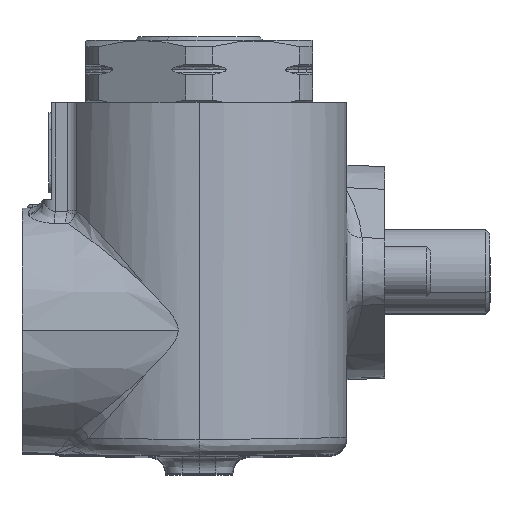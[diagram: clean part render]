
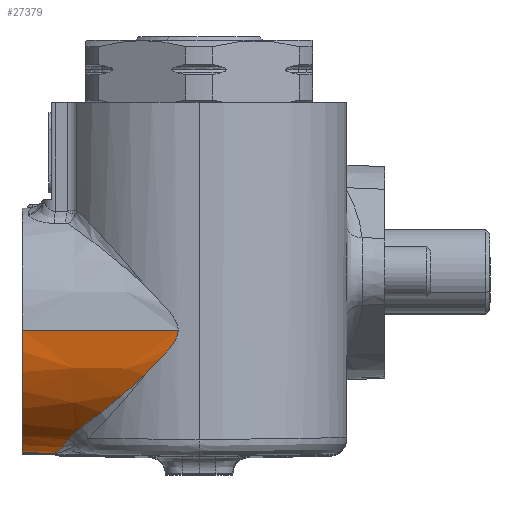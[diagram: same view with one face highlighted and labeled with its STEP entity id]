
A CAD part, top view. The second image highlights one B-rep face of the part: STEP entity #27379.
In plain terms, the highlighted conical face has half-angle 1 degrees and reference radius 14.5 mm.
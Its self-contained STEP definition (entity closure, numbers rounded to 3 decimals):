
#308 = EDGE_CURVE ( 'NONE', #27562, #26182, #27043, .T. ) ;
#863 = EDGE_CURVE ( 'NONE', #12805, #17839, #9893, .T. ) ;
#933 = ORIENTED_EDGE ( 'NONE', *, *, #25810, .F. ) ;
#1223 = CARTESIAN_POINT ( 'NONE',  ( -8.055, -18.576, 65.432 ) ) ;
#1335 = CARTESIAN_POINT ( 'NONE',  ( -8.055, -18.576, 65.432 ) ) ;
#1845 = ORIENTED_EDGE ( 'NONE', *, *, #308, .F. ) ;
#1894 = CARTESIAN_POINT ( 'NONE',  ( -15., -7., 56.5 ) ) ;
#2265 = VECTOR ( 'NONE', #24478, 1000. ) ;
#2298 = CARTESIAN_POINT ( 'NONE',  ( -10.236, -20.861, 61.068 ) ) ;
#2442 = CARTESIAN_POINT ( 'NONE',  ( -9.89, -20.47, 62.134 ) ) ;
#2775 = CARTESIAN_POINT ( 'NONE',  ( 1.48, -10.346, 70.91 ) ) ;
#3693 = CIRCLE ( 'NONE', #29605, 14.5 ) ;
#4093 = CARTESIAN_POINT ( 'NONE',  ( -15., -7., 71. ) ) ;
#4557 = VERTEX_POINT ( 'NONE', #11595 ) ;
#4681 = CARTESIAN_POINT ( 'NONE',  ( -11.103, -21.568, 57.088 ) ) ;
#5613 = CARTESIAN_POINT ( 'NONE',  ( -3.048, -14.656, 69.076 ) ) ;
#6078 = CARTESIAN_POINT ( 'NONE',  ( -4.98, -16.236, 67.923 ) ) ;
#6126 = CARTESIAN_POINT ( 'NONE',  ( -9.52, -19.989, 63.157 ) ) ;
#6154 = LINE ( 'NONE', #4093, #17882 ) ;
#6502 = VERTEX_POINT ( 'NONE', #11974 ) ;
#8183 = CARTESIAN_POINT ( 'NONE',  ( 2.043, -9.715, 71.048 ) ) ;
#9863 = CARTESIAN_POINT ( 'NONE',  ( -0.474, -12.326, 70.259 ) ) ;
#9893 = B_SPLINE_CURVE_WITH_KNOTS ( 'NONE', 3,
 ( #6126, #13243, #13552, #18673, #30299, #1223 ),
 .UNSPECIFIED., .F., .F.,
 ( 4, 2, 4 ),
 ( 0., 0.002, 0.003 ),
 .UNSPECIFIED. ) ;
#10045 = CARTESIAN_POINT ( 'NONE',  ( -9.704, -20.245, 62.651 ) ) ;
#10221 = CARTESIAN_POINT ( 'NONE',  ( 2.586, -9.06, 71.165 ) ) ;
#10369 = CARTESIAN_POINT ( 'NONE',  ( -3.695, -15.195, 68.718 ) ) ;
#10532 = CARTESIAN_POINT ( 'NONE',  ( 1.093, -10.752, 70.803 ) ) ;
#10727 = EDGE_CURVE ( 'NONE', #4557, #26182, #3693, .T. ) ;
#10935 = FACE_OUTER_BOUND ( 'NONE', #11884, .T. ) ;
#11014 = CARTESIAN_POINT ( 'NONE',  ( -15., -21.5, 56.5 ) ) ;
#11525 = CARTESIAN_POINT ( 'NONE',  ( -15., -7., 56.5 ) ) ;
#11595 = CARTESIAN_POINT ( 'NONE',  ( -15., -7., 71. ) ) ;
#11884 = EDGE_LOOP ( 'NONE', ( #933, #22754, #1845, #21635, #27670, #24370, #26331 ) ) ;
#11938 = EDGE_CURVE ( 'NONE', #6502, #18671, #25574, .T. ) ;
#11974 = CARTESIAN_POINT ( 'NONE',  ( 3.519, -7., 71.323 ) ) ;
#12279 = CARTESIAN_POINT ( 'NONE',  ( 3.519, -7.29, 71.323 ) ) ;
#12431 = CARTESIAN_POINT ( 'NONE',  ( 0.313, -11.549, 70.555 ) ) ;
#12597 = CARTESIAN_POINT ( 'NONE',  ( -0.08, -11.94, 70.415 ) ) ;
#12805 = VERTEX_POINT ( 'NONE', #14242 ) ;
#12892 = CARTESIAN_POINT ( 'NONE',  ( -0.474, -12.326, 70.259 ) ) ;
#13243 = CARTESIAN_POINT ( 'NONE',  ( -9.36, -19.768, 63.595 ) ) ;
#13552 = CARTESIAN_POINT ( 'NONE',  ( -9.159, -19.535, 64.002 ) ) ;
#14242 = CARTESIAN_POINT ( 'NONE',  ( -9.52, -19.989, 63.157 ) ) ;
#14348 = CARTESIAN_POINT ( 'NONE',  ( -11.01, -21.534, 57.672 ) ) ;
#14501 = CARTESIAN_POINT ( 'NONE',  ( -11.198, -21.566, 56.5 ) ) ;
#14507 = CARTESIAN_POINT ( 'NONE',  ( -10.798, -21.398, 58.826 ) ) ;
#14577 = CARTESIAN_POINT ( 'NONE',  ( -17., -21.465, 56.5 ) ) ;
#14662 = CARTESIAN_POINT ( 'NONE',  ( 2.228, -9.501, 71.09 ) ) ;
#16136 = EDGE_CURVE ( 'NONE', #27562, #12805, #26915, .T. ) ;
#16230 = B_SPLINE_CURVE_WITH_KNOTS ( 'NONE', 3,
 ( #1335, #18021, #27744, #29804, #6078, #10369, #5613, #25336, #25039, #12892 ),
 .UNSPECIFIED., .F., .F.,
 ( 4, 2, 2, 2, 4 ),
 ( 0., 0.003, 0.006, 0.008, 0.011 ),
 .UNSPECIFIED. ) ;
#16521 = DIRECTION ( 'NONE',  ( 0., 0., 1. ) ) ;
#16646 = DIRECTION ( 'NONE',  ( 1., 0., 0. ) ) ;
#16677 = DIRECTION ( 'NONE',  ( 1., 0., 0. ) ) ;
#17427 = CARTESIAN_POINT ( 'NONE',  ( 2.76, -8.831, 71.198 ) ) ;
#17502 = AXIS2_PLACEMENT_3D ( 'NONE', #1894, #16677, #16521 ) ;
#17839 = VERTEX_POINT ( 'NONE', #26396 ) ;
#17882 = VECTOR ( 'NONE', #18550, 1000. ) ;
#18021 = CARTESIAN_POINT ( 'NONE',  ( -7.469, -18.149, 66.002 ) ) ;
#18550 = DIRECTION ( 'NONE',  ( 1., 0., 0.017 ) ) ;
#18671 = VERTEX_POINT ( 'NONE', #9863 ) ;
#18673 = CARTESIAN_POINT ( 'NONE',  ( -8.672, -19.06, 64.76 ) ) ;
#19618 = CARTESIAN_POINT ( 'NONE',  ( -10.396, -21.028, 60.517 ) ) ;
#19780 = CARTESIAN_POINT ( 'NONE',  ( -9.52, -19.989, 63.157 ) ) ;
#21635 = ORIENTED_EDGE ( 'NONE', *, *, #16136, .T. ) ;
#22023 = CARTESIAN_POINT ( 'NONE',  ( 3.448, -7.576, 71.313 ) ) ;
#22501 = CARTESIAN_POINT ( 'NONE',  ( 3.519, -7., 71.323 ) ) ;
#22569 = CONICAL_SURFACE ( 'NONE', #17502, 14.5, 0.017 ) ;
#22754 = ORIENTED_EDGE ( 'NONE', *, *, #10727, .T. ) ;
#24370 = ORIENTED_EDGE ( 'NONE', *, *, #27664, .T. ) ;
#24478 = DIRECTION ( 'NONE',  ( -1., 0.017, 0. ) ) ;
#25039 = CARTESIAN_POINT ( 'NONE',  ( -1.107, -12.947, 70.006 ) ) ;
#25336 = CARTESIAN_POINT ( 'NONE',  ( -1.754, -13.532, 69.72 ) ) ;
#25574 = B_SPLINE_CURVE_WITH_KNOTS ( 'NONE', 3,
 ( #22501, #12279, #22023, #29954, #29344, #17427, #10221, #14662, #8183, #2775, #10532, #12431, #12597, #26801 ),
 .UNSPECIFIED., .F., .F.,
 ( 4, 2, 2, 2, 2, 2, 4 ),
 ( 0.023, 0.024, 0.025, 0.026, 0.026, 0.028, 0.03 ),
 .UNSPECIFIED. ) ;
#25810 = EDGE_CURVE ( 'NONE', #4557, #6502, #6154, .T. ) ;
#26182 = VERTEX_POINT ( 'NONE', #11014 ) ;
#26331 = ORIENTED_EDGE ( 'NONE', *, *, #11938, .F. ) ;
#26396 = CARTESIAN_POINT ( 'NONE',  ( -8.055, -18.576, 65.432 ) ) ;
#26470 = CARTESIAN_POINT ( 'NONE',  ( -11.198, -21.566, 56.5 ) ) ;
#26801 = CARTESIAN_POINT ( 'NONE',  ( -0.474, -12.326, 70.259 ) ) ;
#26915 = B_SPLINE_CURVE_WITH_KNOTS ( 'NONE', 3,
 ( #26470, #4681, #14348, #14507, #29175, #19618, #2298, #2442, #10045, #19780 ),
 .UNSPECIFIED., .F., .F.,
 ( 4, 2, 2, 2, 4 ),
 ( 0., 0.002, 0.004, 0.005, 0.007 ),
 .UNSPECIFIED. ) ;
#27043 = LINE ( 'NONE', #14577, #2265 ) ;
#27379 = ADVANCED_FACE ( 'NONE', ( #10935 ), #22569, .T. ) ;
#27562 = VERTEX_POINT ( 'NONE', #14501 ) ;
#27664 = EDGE_CURVE ( 'NONE', #17839, #18671, #16230, .T. ) ;
#27670 = ORIENTED_EDGE ( 'NONE', *, *, #863, .T. ) ;
#27744 = CARTESIAN_POINT ( 'NONE',  ( -6.863, -17.695, 66.523 ) ) ;
#29175 = CARTESIAN_POINT ( 'NONE',  ( -10.678, -21.297, 59.395 ) ) ;
#29344 = CARTESIAN_POINT ( 'NONE',  ( 3.08, -8.355, 71.255 ) ) ;
#29605 = AXIS2_PLACEMENT_3D ( 'NONE', #11525, #16646, #30962 ) ;
#29804 = CARTESIAN_POINT ( 'NONE',  ( -5.619, -16.739, 67.483 ) ) ;
#29954 = CARTESIAN_POINT ( 'NONE',  ( 3.225, -8.108, 71.279 ) ) ;
#30299 = CARTESIAN_POINT ( 'NONE',  ( -8.383, -18.815, 65.113 ) ) ;
#30962 = DIRECTION ( 'NONE',  ( 0., 0., -1. ) ) ;
